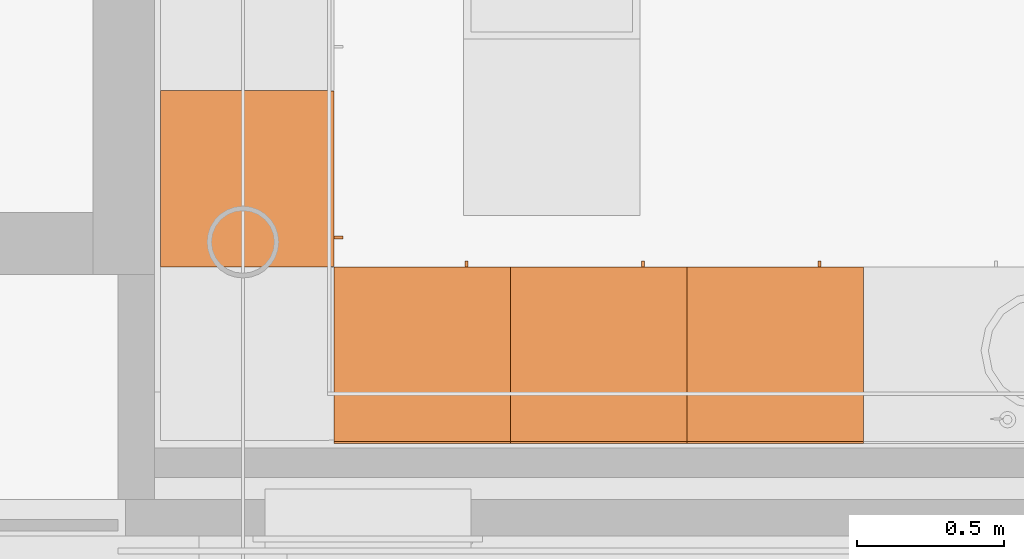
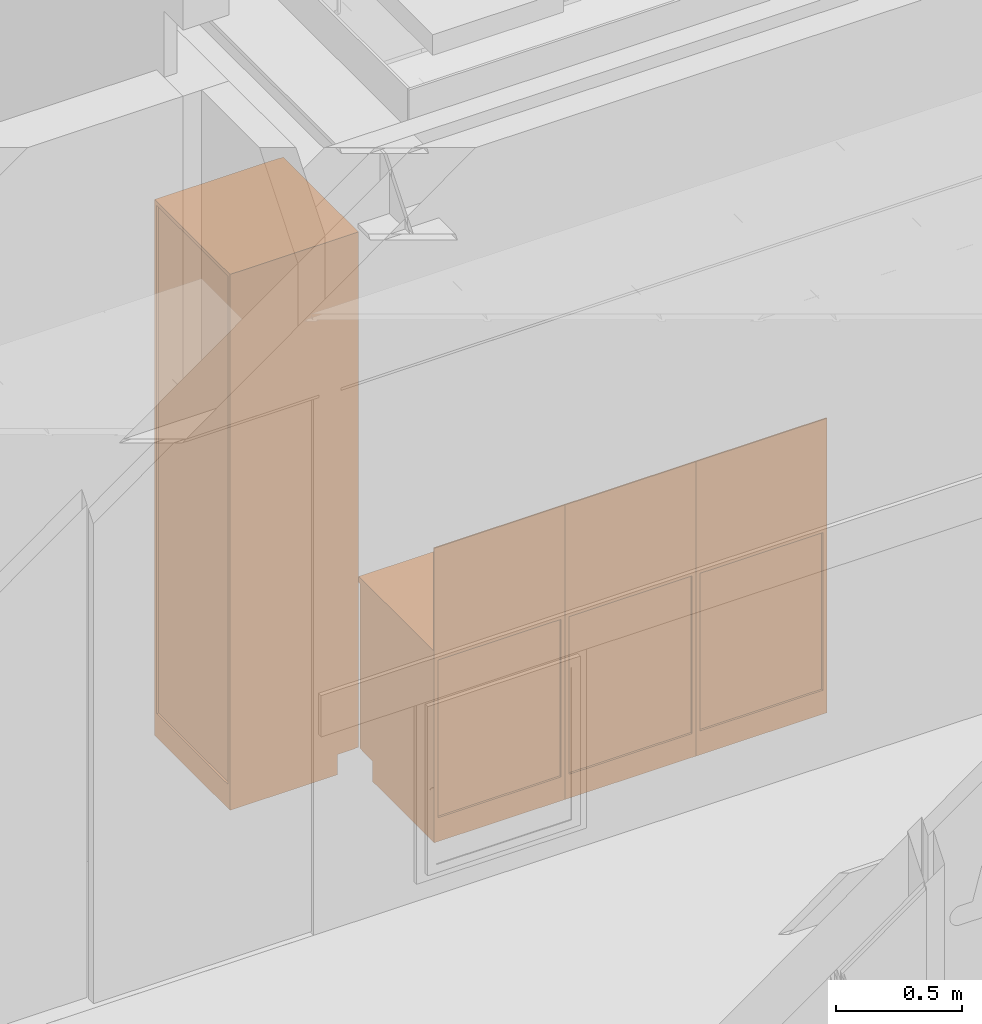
# One storey, part 340 of 347: 4 proxies.
"""IFC2X3 building model written with IfcOpenShell, lengths in millimetres."""

from ifc_helpers import new_model, entity, si_unit, converted_unit, derived_unit, money_unit, direction, frame, origin_with_axes, place, context, subcontext, project, spatial, faceted_brep, type_object, element, save


model = new_model("IFC2X3")

# Units and contexts
model_context = context("Model", 3, precision=0.01, world=origin_with_axes(), true_north=direction((0.0, 1.0)))
plan_context = context("Plan", 3, precision=0.01, world=origin_with_axes(), true_north=direction((0.0, 1.0)))
body_context = subcontext(model_context, "Body", "Model", "MODEL_VIEW")
ifc_project = project(units=[si_unit("LENGTHUNIT", "METRE", prefix="MILLI"), si_unit("AREAUNIT", "SQUARE_METRE"), si_unit("VOLUMEUNIT", "CUBIC_METRE"), converted_unit("PLANEANGLEUNIT", "DEGREE", entity("IfcPlaneAngleMeasure", 0.0174532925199), si_unit("PLANEANGLEUNIT", "RADIAN"), dimensions=[0, 0, 0, 0, 0, 0, 0]), money_unit("EUR"), converted_unit("TIMEUNIT", "Year", entity("IfcTimeMeasure", 31556926.0), si_unit("TIMEUNIT", "SECOND"), dimensions=[0, 0, 1, 0, 0, 0, 0]), si_unit("MASSUNIT", "GRAM", prefix="KILO"), si_unit("THERMODYNAMICTEMPERATUREUNIT", "DEGREE_CELSIUS"), si_unit("LUMINOUSINTENSITYUNIT", "LUMEN"), si_unit("ENERGYUNIT", "JOULE", prefix="MEGA"), derived_unit("THERMALCONDUCTANCEUNIT", [(si_unit("POWERUNIT", "WATT"), 1), (si_unit("LENGTHUNIT", "METRE"), -1), (si_unit("THERMODYNAMICTEMPERATUREUNIT", "KELVIN"), -1)]), derived_unit("SPECIFICHEATCAPACITYUNIT", [(si_unit("ENERGYUNIT", "JOULE"), 1), (si_unit("MASSUNIT", "GRAM", prefix="KILO"), -1), (si_unit("THERMODYNAMICTEMPERATUREUNIT", "KELVIN"), -1)]), derived_unit("MASSDENSITYUNIT", [(si_unit("MASSUNIT", "GRAM", prefix="KILO"), 1), (si_unit("VOLUMEUNIT", "CUBIC_METRE"), -1)])], contexts=[model_context, plan_context])

# Site, building, storey
site_placement = place(None, origin_with_axes())
site = spatial("IfcSite", under=ifc_project, at=site_placement, Name="Site", CompositionType="ELEMENT")
building_placement = place(site_placement, origin_with_axes())
building = spatial("IfcBuilding", under=site, at=building_placement, Name="Naam gebouw", CompositionType="ELEMENT")
storey_placement = place(building_placement, origin_with_axes())
storey = spatial("IfcBuildingStorey", under=building, at=storey_placement, Name="begane grond", CompositionType="ELEMENT", Elevation=0.0)

# Proxies
building_element_proxy_type = type_object("IfcBuildingElementProxyType", Name="Onderkast recht 25", PredefinedType="NOTDEFINED")
proxy_1_placement = place(storey_placement, frame((25485.0, 14715.0, 0.0), z_axis=(0.0, 0.0, 1.0), x_axis=(-1.0, 0.0, 0.0)))
element("IfcBuildingElementProxy", 1, at=proxy_1_placement, inside=storey, type_object=building_element_proxy_type, Name="_73 pantryblok", context=body_context, shape_type="Brep", body=[
    faceted_brep([(-600.0, 0.0, 2.0), (-600.0, -492.0, 2.0), (-600.0, -492.0, 100.0), (-600.0, 0.0, 100.0), (0.0, -492.0, 2.0), (0.0, 0.0, 2.0), (0.0, -492.0, 100.0), (0.0, 0.0, 100.0)], [[[0, 1, 2, 3]], [[4, 1, 0, 5]], [[1, 4, 6, 2]], [[2, 6, 7, 3]], [[5, 0, 3, 7]], [[4, 5, 7, 6]]]),
    faceted_brep([(0.0, -600.0, 900.0), (0.0, -600.0, 930.0), (-600.0, -600.0, 930.0), (-600.0, -600.0, 900.0), (0.0, 0.0, 900.0), (0.0, 0.0, 930.0), (-600.0, 0.0, 930.0), (-600.0, 0.0, 900.0)], [[[0, 1, 2, 3]], [[4, 5, 1, 0]], [[1, 5, 6, 2]], [[3, 2, 6, 7]], [[0, 3, 7, 4]], [[7, 6, 5, 4]]]),
    faceted_brep([(-600.0, 0.0, 930.0), (0.0, 0.0, 930.0), (0.0, -6.0, 930.0), (-600.0, -6.0, 930.0), (-600.0, 0.0, 1430.0), (0.0, 0.0, 1430.0), (0.0, -6.0, 1430.0), (-600.0, -6.0, 1430.0)], [[[0, 1, 2, 3]], [[4, 5, 1, 0]], [[1, 5, 6, 2]], [[3, 2, 6, 7]], [[0, 3, 7, 4]], [[7, 6, 5, 4]]]),
    faceted_brep([(-446.0, -590.0, 416.0), (-456.0, -590.0, 416.0), (-456.0, -590.0, 426.0), (-446.0, -590.0, 426.0), (-446.0, -600.0, 416.0), (-456.0, -600.0, 416.0), (-456.0, -603.472963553, 416.30384494), (-456.0, -606.840402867, 417.206147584), (-456.0, -610.0, 418.679491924), (-456.0, -612.855752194, 420.679111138), (-456.0, -615.320888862, 423.144247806), (-456.0, -617.320508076, 426.0), (-456.0, -618.793852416, 429.159597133), (-456.0, -619.69615506, 432.527036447), (-456.0, -620.0, 436.0), (-456.0, -620.0, 516.0), (-456.0, -619.69615506, 519.472963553), (-456.0, -618.793852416, 522.840402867), (-456.0, -617.320508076, 526.0), (-456.0, -615.320888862, 528.855752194), (-456.0, -612.855752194, 531.320888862), (-456.0, -610.0, 533.320508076), (-456.0, -606.840402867, 534.793852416), (-456.0, -603.472963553, 535.69615506), (-456.0, -600.0, 536.0), (-456.0, -590.0, 536.0), (-456.0, -590.0, 526.0), (-456.0, -600.0, 526.0), (-456.0, -601.736481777, 525.84807753), (-456.0, -603.420201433, 525.396926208), (-456.0, -605.0, 524.660254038), (-456.0, -606.427876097, 523.660444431), (-456.0, -607.660444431, 522.427876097), (-456.0, -608.660254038, 521.0), (-456.0, -609.396926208, 519.420201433), (-456.0, -609.84807753, 517.736481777), (-456.0, -610.0, 516.0), (-456.0, -610.0, 436.0), (-456.0, -609.84807753, 434.263518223), (-456.0, -609.396926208, 432.579798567), (-456.0, -608.660254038, 431.0), (-456.0, -607.660444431, 429.572123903), (-456.0, -606.427876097, 428.339555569), (-456.0, -605.0, 427.339745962), (-456.0, -603.420201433, 426.603073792), (-456.0, -601.736481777, 426.15192247), (-456.0, -600.0, 426.0), (-446.0, -600.0, 426.0), (-446.0, -601.736481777, 426.15192247), (-446.0, -603.420201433, 426.603073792), (-446.0, -605.0, 427.339745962), (-446.0, -606.427876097, 428.339555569), (-446.0, -607.660444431, 429.572123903), (-446.0, -608.660254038, 431.0), (-446.0, -609.396926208, 432.579798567), (-446.0, -609.84807753, 434.263518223), (-446.0, -610.0, 436.0), (-446.0, -610.0, 516.0), (-446.0, -609.84807753, 517.736481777), (-446.0, -609.396926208, 519.420201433), (-446.0, -608.660254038, 521.0), (-446.0, -607.660444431, 522.427876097), (-446.0, -606.427876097, 523.660444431), (-446.0, -605.0, 524.660254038), (-446.0, -603.420201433, 525.396926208), (-446.0, -601.736481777, 525.84807753), (-446.0, -600.0, 526.0), (-446.0, -590.0, 526.0), (-446.0, -590.0, 536.0), (-446.0, -600.0, 536.0), (-446.0, -603.472963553, 535.69615506), (-446.0, -606.840402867, 534.793852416), (-446.0, -610.0, 533.320508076), (-446.0, -612.855752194, 531.320888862), (-446.0, -615.320888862, 528.855752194), (-446.0, -617.320508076, 526.0), (-446.0, -618.793852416, 522.840402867), (-446.0, -619.69615506, 519.472963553), (-446.0, -620.0, 516.0), (-446.0, -620.0, 436.0), (-446.0, -619.69615506, 432.527036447), (-446.0, -618.793852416, 429.159597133), (-446.0, -617.320508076, 426.0), (-446.0, -615.320888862, 423.144247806), (-446.0, -612.855752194, 420.679111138), (-446.0, -610.0, 418.679491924), (-446.0, -606.840402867, 417.206147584), (-446.0, -603.472963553, 416.30384494)], [[[0, 1, 2, 3]], [[4, 5, 1, 0]], [[1, 5, 6, 7, 8, 9, 10, 11, 12, 13, 14, 15, 16, 17, 18, 19, 20, 21, 22, 23, 24, 25, 26, 27, 28, 29, 30, 31, 32, 33, 34, 35, 36, 37, 38, 39, 40, 41, 42, 43, 44, 45, 46, 2]], [[3, 2, 46, 47]], [[0, 3, 47, 48, 49, 50, 51, 52, 53, 54, 55, 56, 57, 58, 59, 60, 61, 62, 63, 64, 65, 66, 67, 68, 69, 70, 71, 72, 73, 74, 75, 76, 77, 78, 79, 80, 81, 82, 83, 84, 85, 86, 87, 4]], [[87, 6, 5, 4]], [[86, 7, 6, 87]], [[85, 8, 7, 86]], [[84, 9, 8, 85]], [[83, 10, 9, 84]], [[82, 11, 10, 83]], [[81, 12, 11, 82]], [[80, 13, 12, 81]], [[79, 14, 13, 80]], [[78, 15, 14, 79]], [[77, 16, 15, 78]], [[76, 17, 16, 77]], [[75, 18, 17, 76]], [[74, 19, 18, 75]], [[73, 20, 19, 74]], [[72, 21, 20, 73]], [[71, 22, 21, 72]], [[70, 23, 22, 71]], [[69, 24, 23, 70]], [[68, 25, 24, 69]], [[67, 26, 25, 68]], [[66, 27, 26, 67]], [[65, 28, 27, 66]], [[64, 29, 28, 65]], [[63, 30, 29, 64]], [[62, 31, 30, 63]], [[61, 32, 31, 62]], [[60, 33, 32, 61]], [[59, 34, 33, 60]], [[58, 35, 34, 59]], [[57, 36, 35, 58]], [[56, 37, 36, 57]], [[55, 38, 37, 56]], [[54, 39, 38, 55]], [[53, 40, 39, 54]], [[52, 41, 40, 53]], [[51, 42, 41, 52]], [[50, 43, 42, 51]], [[49, 44, 43, 50]], [[48, 45, 44, 49]], [[47, 46, 45, 48]]]),
    faceted_brep([(-1.0, -572.0, 101.0), (-1.0, -590.0, 101.0), (-599.0, -590.0, 101.0), (-599.0, -572.0, 101.0), (-1.0, -572.0, 899.0), (-1.0, -590.0, 899.0), (-599.0, -590.0, 899.0), (-599.0, -572.0, 899.0)], [[[0, 1, 2, 3]], [[4, 5, 1, 0]], [[1, 5, 6, 2]], [[3, 2, 6, 7]], [[0, 3, 7, 4]], [[7, 6, 5, 4]]]),
    faceted_brep([(-18.0, -572.0, 100.0), (-18.0, -572.0, 118.0), (-582.0, -572.0, 118.0), (-582.0, -572.0, 100.0), (-18.0, 0.0, 100.0), (-18.0, 0.0, 118.0), (-582.0, 0.0, 118.0), (-582.0, 0.0, 100.0)], [[[0, 1, 2, 3]], [[4, 5, 1, 0]], [[1, 5, 6, 2]], [[3, 2, 6, 7]], [[0, 3, 7, 4]], [[7, 6, 5, 4]]]),
    faceted_brep([(-18.0, -572.0, 882.0), (-582.0, -572.0, 882.0), (-582.0, -512.0, 882.0), (-18.0, -512.0, 882.0), (-18.0, -572.0, 900.0), (-582.0, -572.0, 900.0), (-582.0, -512.0, 900.0), (-18.0, -512.0, 900.0)], [[[0, 1, 2, 3]], [[4, 5, 1, 0]], [[1, 5, 6, 2]], [[3, 2, 6, 7]], [[0, 3, 7, 4]], [[7, 6, 5, 4]]]),
    faceted_brep([(-582.0, 0.0, 882.0), (-18.0, 0.0, 882.0), (-18.0, -60.0, 882.0), (-582.0, -60.0, 882.0), (-582.0, 0.0, 900.0), (-18.0, 0.0, 900.0), (-18.0, -60.0, 900.0), (-582.0, -60.0, 900.0)], [[[0, 1, 2, 3]], [[4, 5, 1, 0]], [[1, 5, 6, 2]], [[3, 2, 6, 7]], [[0, 3, 7, 4]], [[7, 6, 5, 4]]]),
    faceted_brep([(0.0, 0.0, 100.0), (0.0, 0.0, 900.0), (0.0, -572.0, 900.0), (0.0, -572.0, 100.0), (-18.0, 0.0, 100.0), (-18.0, 0.0, 900.0), (-18.0, -572.0, 900.0), (-18.0, -572.0, 100.0)], [[[0, 1, 2, 3]], [[4, 5, 1, 0]], [[1, 5, 6, 2]], [[3, 2, 6, 7]], [[0, 3, 7, 4]], [[7, 6, 5, 4]]]),
    faceted_brep([(-600.0, -572.0, 100.0), (-600.0, -572.0, 900.0), (-600.0, 0.0, 900.0), (-600.0, 0.0, 100.0), (-582.0, -572.0, 100.0), (-582.0, -572.0, 900.0), (-582.0, 0.0, 900.0), (-582.0, 0.0, 100.0)], [[[0, 1, 2, 3]], [[4, 5, 1, 0]], [[1, 5, 6, 2]], [[3, 2, 6, 7]], [[0, 3, 7, 4]], [[7, 6, 5, 4]]]),
    faceted_brep([(-582.0, -9.0, 118.0), (-582.0, -9.0, 882.0), (-18.0, -9.0, 882.0), (-18.0, -9.0, 118.0), (-582.0, -18.0, 118.0), (-582.0, -18.0, 882.0), (-18.0, -18.0, 882.0), (-18.0, -18.0, 118.0)], [[[0, 1, 2, 3]], [[4, 5, 1, 0]], [[1, 5, 6, 2]], [[3, 2, 6, 7]], [[0, 3, 7, 4]], [[7, 6, 5, 4]]]),
])
proxy_2_placement = place(storey_placement, frame((24885.0, 14715.0, 0.0), z_axis=(0.0, 0.0, 1.0), x_axis=(-1.0, 0.0, 0.0)))
element("IfcBuildingElementProxy", 2, at=proxy_2_placement, inside=storey, type_object=building_element_proxy_type, Name="_73 pantryblok", context=body_context, shape_type="Brep", body=[
    faceted_brep([(-600.0, 0.0, 2.0), (-600.0, -492.0, 2.0), (-600.0, -492.0, 100.0), (-600.0, 0.0, 100.0), (0.0, -492.0, 2.0), (0.0, 0.0, 2.0), (0.0, -492.0, 100.0), (0.0, 0.0, 100.0)], [[[0, 1, 2, 3]], [[4, 1, 0, 5]], [[1, 4, 6, 2]], [[2, 6, 7, 3]], [[5, 0, 3, 7]], [[4, 5, 7, 6]]]),
    faceted_brep([(0.0, -600.0, 900.0), (0.0, -600.0, 930.0), (-600.0, -600.0, 930.0), (-600.0, -600.0, 900.0), (0.0, 0.0, 900.0), (0.0, 0.0, 930.0), (-600.0, 0.0, 930.0), (-600.0, 0.0, 900.0)], [[[0, 1, 2, 3]], [[4, 5, 1, 0]], [[1, 5, 6, 2]], [[3, 2, 6, 7]], [[0, 3, 7, 4]], [[7, 6, 5, 4]]]),
    faceted_brep([(-600.0, 0.0, 930.0), (0.0, 0.0, 930.0), (0.0, -6.0, 930.0), (-600.0, -6.0, 930.0), (-600.0, 0.0, 1430.0), (0.0, 0.0, 1430.0), (0.0, -6.0, 1430.0), (-600.0, -6.0, 1430.0)], [[[0, 1, 2, 3]], [[4, 5, 1, 0]], [[1, 5, 6, 2]], [[3, 2, 6, 7]], [[0, 3, 7, 4]], [[7, 6, 5, 4]]]),
    faceted_brep([(-446.0, -590.0, 416.0), (-456.0, -590.0, 416.0), (-456.0, -590.0, 426.0), (-446.0, -590.0, 426.0), (-446.0, -600.0, 416.0), (-456.0, -600.0, 416.0), (-456.0, -603.472963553, 416.30384494), (-456.0, -606.840402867, 417.206147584), (-456.0, -610.0, 418.679491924), (-456.0, -612.855752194, 420.679111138), (-456.0, -615.320888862, 423.144247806), (-456.0, -617.320508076, 426.0), (-456.0, -618.793852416, 429.159597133), (-456.0, -619.69615506, 432.527036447), (-456.0, -620.0, 436.0), (-456.0, -620.0, 516.0), (-456.0, -619.69615506, 519.472963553), (-456.0, -618.793852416, 522.840402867), (-456.0, -617.320508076, 526.0), (-456.0, -615.320888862, 528.855752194), (-456.0, -612.855752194, 531.320888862), (-456.0, -610.0, 533.320508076), (-456.0, -606.840402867, 534.793852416), (-456.0, -603.472963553, 535.69615506), (-456.0, -600.0, 536.0), (-456.0, -590.0, 536.0), (-456.0, -590.0, 526.0), (-456.0, -600.0, 526.0), (-456.0, -601.736481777, 525.84807753), (-456.0, -603.420201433, 525.396926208), (-456.0, -605.0, 524.660254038), (-456.0, -606.427876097, 523.660444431), (-456.0, -607.660444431, 522.427876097), (-456.0, -608.660254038, 521.0), (-456.0, -609.396926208, 519.420201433), (-456.0, -609.84807753, 517.736481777), (-456.0, -610.0, 516.0), (-456.0, -610.0, 436.0), (-456.0, -609.84807753, 434.263518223), (-456.0, -609.396926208, 432.579798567), (-456.0, -608.660254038, 431.0), (-456.0, -607.660444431, 429.572123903), (-456.0, -606.427876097, 428.339555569), (-456.0, -605.0, 427.339745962), (-456.0, -603.420201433, 426.603073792), (-456.0, -601.736481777, 426.15192247), (-456.0, -600.0, 426.0), (-446.0, -600.0, 426.0), (-446.0, -601.736481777, 426.15192247), (-446.0, -603.420201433, 426.603073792), (-446.0, -605.0, 427.339745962), (-446.0, -606.427876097, 428.339555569), (-446.0, -607.660444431, 429.572123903), (-446.0, -608.660254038, 431.0), (-446.0, -609.396926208, 432.579798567), (-446.0, -609.84807753, 434.263518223), (-446.0, -610.0, 436.0), (-446.0, -610.0, 516.0), (-446.0, -609.84807753, 517.736481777), (-446.0, -609.396926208, 519.420201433), (-446.0, -608.660254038, 521.0), (-446.0, -607.660444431, 522.427876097), (-446.0, -606.427876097, 523.660444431), (-446.0, -605.0, 524.660254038), (-446.0, -603.420201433, 525.396926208), (-446.0, -601.736481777, 525.84807753), (-446.0, -600.0, 526.0), (-446.0, -590.0, 526.0), (-446.0, -590.0, 536.0), (-446.0, -600.0, 536.0), (-446.0, -603.472963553, 535.69615506), (-446.0, -606.840402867, 534.793852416), (-446.0, -610.0, 533.320508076), (-446.0, -612.855752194, 531.320888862), (-446.0, -615.320888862, 528.855752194), (-446.0, -617.320508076, 526.0), (-446.0, -618.793852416, 522.840402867), (-446.0, -619.69615506, 519.472963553), (-446.0, -620.0, 516.0), (-446.0, -620.0, 436.0), (-446.0, -619.69615506, 432.527036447), (-446.0, -618.793852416, 429.159597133), (-446.0, -617.320508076, 426.0), (-446.0, -615.320888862, 423.144247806), (-446.0, -612.855752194, 420.679111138), (-446.0, -610.0, 418.679491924), (-446.0, -606.840402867, 417.206147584), (-446.0, -603.472963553, 416.30384494)], [[[0, 1, 2, 3]], [[4, 5, 1, 0]], [[1, 5, 6, 7, 8, 9, 10, 11, 12, 13, 14, 15, 16, 17, 18, 19, 20, 21, 22, 23, 24, 25, 26, 27, 28, 29, 30, 31, 32, 33, 34, 35, 36, 37, 38, 39, 40, 41, 42, 43, 44, 45, 46, 2]], [[3, 2, 46, 47]], [[0, 3, 47, 48, 49, 50, 51, 52, 53, 54, 55, 56, 57, 58, 59, 60, 61, 62, 63, 64, 65, 66, 67, 68, 69, 70, 71, 72, 73, 74, 75, 76, 77, 78, 79, 80, 81, 82, 83, 84, 85, 86, 87, 4]], [[87, 6, 5, 4]], [[86, 7, 6, 87]], [[85, 8, 7, 86]], [[84, 9, 8, 85]], [[83, 10, 9, 84]], [[82, 11, 10, 83]], [[81, 12, 11, 82]], [[80, 13, 12, 81]], [[79, 14, 13, 80]], [[78, 15, 14, 79]], [[77, 16, 15, 78]], [[76, 17, 16, 77]], [[75, 18, 17, 76]], [[74, 19, 18, 75]], [[73, 20, 19, 74]], [[72, 21, 20, 73]], [[71, 22, 21, 72]], [[70, 23, 22, 71]], [[69, 24, 23, 70]], [[68, 25, 24, 69]], [[67, 26, 25, 68]], [[66, 27, 26, 67]], [[65, 28, 27, 66]], [[64, 29, 28, 65]], [[63, 30, 29, 64]], [[62, 31, 30, 63]], [[61, 32, 31, 62]], [[60, 33, 32, 61]], [[59, 34, 33, 60]], [[58, 35, 34, 59]], [[57, 36, 35, 58]], [[56, 37, 36, 57]], [[55, 38, 37, 56]], [[54, 39, 38, 55]], [[53, 40, 39, 54]], [[52, 41, 40, 53]], [[51, 42, 41, 52]], [[50, 43, 42, 51]], [[49, 44, 43, 50]], [[48, 45, 44, 49]], [[47, 46, 45, 48]]]),
    faceted_brep([(-1.0, -572.0, 101.0), (-1.0, -590.0, 101.0), (-599.0, -590.0, 101.0), (-599.0, -572.0, 101.0), (-1.0, -572.0, 899.0), (-1.0, -590.0, 899.0), (-599.0, -590.0, 899.0), (-599.0, -572.0, 899.0)], [[[0, 1, 2, 3]], [[4, 5, 1, 0]], [[1, 5, 6, 2]], [[3, 2, 6, 7]], [[0, 3, 7, 4]], [[7, 6, 5, 4]]]),
    faceted_brep([(-18.0, -572.0, 100.0), (-18.0, -572.0, 118.0), (-582.0, -572.0, 118.0), (-582.0, -572.0, 100.0), (-18.0, 0.0, 100.0), (-18.0, 0.0, 118.0), (-582.0, 0.0, 118.0), (-582.0, 0.0, 100.0)], [[[0, 1, 2, 3]], [[4, 5, 1, 0]], [[1, 5, 6, 2]], [[3, 2, 6, 7]], [[0, 3, 7, 4]], [[7, 6, 5, 4]]]),
    faceted_brep([(-18.0, -572.0, 882.0), (-582.0, -572.0, 882.0), (-582.0, -512.0, 882.0), (-18.0, -512.0, 882.0), (-18.0, -572.0, 900.0), (-582.0, -572.0, 900.0), (-582.0, -512.0, 900.0), (-18.0, -512.0, 900.0)], [[[0, 1, 2, 3]], [[4, 5, 1, 0]], [[1, 5, 6, 2]], [[3, 2, 6, 7]], [[0, 3, 7, 4]], [[7, 6, 5, 4]]]),
    faceted_brep([(-582.0, 0.0, 882.0), (-18.0, 0.0, 882.0), (-18.0, -60.0, 882.0), (-582.0, -60.0, 882.0), (-582.0, 0.0, 900.0), (-18.0, 0.0, 900.0), (-18.0, -60.0, 900.0), (-582.0, -60.0, 900.0)], [[[0, 1, 2, 3]], [[4, 5, 1, 0]], [[1, 5, 6, 2]], [[3, 2, 6, 7]], [[0, 3, 7, 4]], [[7, 6, 5, 4]]]),
    faceted_brep([(0.0, 0.0, 100.0), (0.0, 0.0, 900.0), (0.0, -572.0, 900.0), (0.0, -572.0, 100.0), (-18.0, 0.0, 100.0), (-18.0, 0.0, 900.0), (-18.0, -572.0, 900.0), (-18.0, -572.0, 100.0)], [[[0, 1, 2, 3]], [[4, 5, 1, 0]], [[1, 5, 6, 2]], [[3, 2, 6, 7]], [[0, 3, 7, 4]], [[7, 6, 5, 4]]]),
    faceted_brep([(-600.0, -572.0, 100.0), (-600.0, -572.0, 900.0), (-600.0, 0.0, 900.0), (-600.0, 0.0, 100.0), (-582.0, -572.0, 100.0), (-582.0, -572.0, 900.0), (-582.0, 0.0, 900.0), (-582.0, 0.0, 100.0)], [[[0, 1, 2, 3]], [[4, 5, 1, 0]], [[1, 5, 6, 2]], [[3, 2, 6, 7]], [[0, 3, 7, 4]], [[7, 6, 5, 4]]]),
    faceted_brep([(-582.0, -9.0, 118.0), (-582.0, -9.0, 882.0), (-18.0, -9.0, 882.0), (-18.0, -9.0, 118.0), (-582.0, -18.0, 118.0), (-582.0, -18.0, 882.0), (-18.0, -18.0, 882.0), (-18.0, -18.0, 118.0)], [[[0, 1, 2, 3]], [[4, 5, 1, 0]], [[1, 5, 6, 2]], [[3, 2, 6, 7]], [[0, 3, 7, 4]], [[7, 6, 5, 4]]]),
])
proxy_3_placement = place(storey_placement, frame((24295.0, 15315.0, 0.0), z_axis=(0.0, 0.0, 1.0), x_axis=(0.0, 1.0, 0.0)))
element("IfcBuildingElementProxy", 3, at=proxy_3_placement, inside=storey, type_object=building_element_proxy_type, Name="_73 pantryblok", context=body_context, shape_type="Brep", body=[
    faceted_brep([(0.0, -492.0, 2.0), (600.0, -492.0, 2.0), (600.0, -492.0, 100.0), (0.0, -492.0, 100.0), (600.0, 0.0, 2.0), (0.0, 0.0, 2.0), (600.0, 0.0, 100.0), (0.0, 0.0, 100.0)], [[[0, 1, 2, 3]], [[4, 1, 0, 5]], [[1, 4, 6, 2]], [[7, 3, 2, 6]], [[5, 0, 3, 7]], [[4, 5, 7, 6]]]),
    faceted_brep([(96.0, -590.0, 1251.0), (96.0, -590.0, 1261.0), (106.0, -590.0, 1261.0), (106.0, -590.0, 1251.0), (96.0, -600.0, 1251.0), (96.0, -603.472963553, 1251.30384494), (96.0, -606.840402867, 1252.20614758), (96.0, -610.0, 1253.67949192), (96.0, -612.855752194, 1255.67911114), (96.0, -615.320888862, 1258.14424781), (96.0, -617.320508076, 1261.0), (96.0, -618.793852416, 1264.15959713), (96.0, -619.69615506, 1267.52703645), (96.0, -620.0, 1271.0), (96.0, -620.0, 1351.0), (96.0, -619.69615506, 1354.47296355), (96.0, -618.793852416, 1357.84040287), (96.0, -617.320508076, 1361.0), (96.0, -615.320888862, 1363.85575219), (96.0, -612.855752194, 1366.32088886), (96.0, -610.0, 1368.32050808), (96.0, -606.840402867, 1369.79385242), (96.0, -603.472963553, 1370.69615506), (96.0, -600.0, 1371.0), (96.0, -590.0, 1371.0), (96.0, -590.0, 1361.0), (96.0, -600.0, 1361.0), (96.0, -601.736481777, 1360.84807753), (96.0, -603.420201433, 1360.39692621), (96.0, -605.0, 1359.66025404), (96.0, -606.427876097, 1358.66044443), (96.0, -607.660444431, 1357.4278761), (96.0, -608.660254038, 1356.0), (96.0, -609.396926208, 1354.42020143), (96.0, -609.84807753, 1352.73648178), (96.0, -610.0, 1351.0), (96.0, -610.0, 1271.0), (96.0, -609.84807753, 1269.26351822), (96.0, -609.396926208, 1267.57979857), (96.0, -608.660254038, 1266.0), (96.0, -607.660444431, 1264.5721239), (96.0, -606.427876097, 1263.33955557), (96.0, -605.0, 1262.33974596), (96.0, -603.420201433, 1261.60307379), (96.0, -601.736481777, 1261.15192247), (96.0, -600.0, 1261.0), (106.0, -600.0, 1261.0), (106.0, -601.736481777, 1261.15192247), (106.0, -603.420201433, 1261.60307379), (106.0, -605.0, 1262.33974596), (106.0, -606.427876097, 1263.33955557), (106.0, -607.660444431, 1264.5721239), (106.0, -608.660254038, 1266.0), (106.0, -609.396926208, 1267.57979857), (106.0, -609.84807753, 1269.26351822), (106.0, -610.0, 1271.0), (106.0, -610.0, 1351.0), (106.0, -609.84807753, 1352.73648178), (106.0, -609.396926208, 1354.42020143), (106.0, -608.660254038, 1356.0), (106.0, -607.660444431, 1357.4278761), (106.0, -606.427876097, 1358.66044443), (106.0, -605.0, 1359.66025404), (106.0, -603.420201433, 1360.39692621), (106.0, -601.736481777, 1360.84807753), (106.0, -600.0, 1361.0), (106.0, -590.0, 1361.0), (106.0, -590.0, 1371.0), (106.0, -600.0, 1371.0), (106.0, -603.472963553, 1370.69615506), (106.0, -606.840402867, 1369.79385242), (106.0, -610.0, 1368.32050808), (106.0, -612.855752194, 1366.32088886), (106.0, -615.320888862, 1363.85575219), (106.0, -617.320508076, 1361.0), (106.0, -618.793852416, 1357.84040287), (106.0, -619.69615506, 1354.47296355), (106.0, -620.0, 1351.0), (106.0, -620.0, 1271.0), (106.0, -619.69615506, 1267.52703645), (106.0, -618.793852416, 1264.15959713), (106.0, -617.320508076, 1261.0), (106.0, -615.320888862, 1258.14424781), (106.0, -612.855752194, 1255.67911114), (106.0, -610.0, 1253.67949192), (106.0, -606.840402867, 1252.20614758), (106.0, -603.472963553, 1251.30384494), (106.0, -600.0, 1251.0)], [[[0, 1, 2, 3]], [[0, 4, 5, 6, 7, 8, 9, 10, 11, 12, 13, 14, 15, 16, 17, 18, 19, 20, 21, 22, 23, 24, 25, 26, 27, 28, 29, 30, 31, 32, 33, 34, 35, 36, 37, 38, 39, 40, 41, 42, 43, 44, 45, 1]], [[1, 45, 46, 2]], [[3, 2, 46, 47, 48, 49, 50, 51, 52, 53, 54, 55, 56, 57, 58, 59, 60, 61, 62, 63, 64, 65, 66, 67, 68, 69, 70, 71, 72, 73, 74, 75, 76, 77, 78, 79, 80, 81, 82, 83, 84, 85, 86, 87]], [[4, 0, 3, 87]], [[5, 4, 87, 86]], [[6, 5, 86, 85]], [[7, 6, 85, 84]], [[8, 7, 84, 83]], [[9, 8, 83, 82]], [[10, 9, 82, 81]], [[11, 10, 81, 80]], [[12, 11, 80, 79]], [[13, 12, 79, 78]], [[14, 13, 78, 77]], [[15, 14, 77, 76]], [[16, 15, 76, 75]], [[17, 16, 75, 74]], [[18, 17, 74, 73]], [[19, 18, 73, 72]], [[20, 19, 72, 71]], [[21, 20, 71, 70]], [[22, 21, 70, 69]], [[23, 22, 69, 68]], [[24, 23, 68, 67]], [[25, 24, 67, 66]], [[26, 25, 66, 65]], [[27, 26, 65, 64]], [[28, 27, 64, 63]], [[29, 28, 63, 62]], [[30, 29, 62, 61]], [[31, 30, 61, 60]], [[32, 31, 60, 59]], [[33, 32, 59, 58]], [[34, 33, 58, 57]], [[35, 34, 57, 56]], [[36, 35, 56, 55]], [[37, 36, 55, 54]], [[38, 37, 54, 53]], [[39, 38, 53, 52]], [[40, 39, 52, 51]], [[41, 40, 51, 50]], [[42, 41, 50, 49]], [[43, 42, 49, 48]], [[44, 43, 48, 47]], [[45, 44, 47, 46]]]),
    faceted_brep([(0.999999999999, -572.0, 101.0), (599.0, -572.0, 101.0), (599.0, -590.0, 101.0), (0.999999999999, -590.0, 101.0), (0.999999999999, -572.0, 2599.0), (599.0, -572.0, 2599.0), (599.0, -590.0, 2599.0), (0.999999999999, -590.0, 2599.0)], [[[0, 1, 2, 3]], [[0, 4, 5, 1]], [[1, 5, 6, 2]], [[3, 2, 6, 7]], [[4, 0, 3, 7]], [[5, 4, 7, 6]]]),
    faceted_brep([(18.0, -572.0, 100.0), (582.0, -572.0, 100.0), (582.0, -572.0, 118.0), (18.0, -572.0, 118.0), (18.0, 0.0, 100.0), (582.0, 0.0, 100.0), (582.0, 0.0, 118.0), (18.0, 0.0, 118.0)], [[[0, 1, 2, 3]], [[0, 4, 5, 1]], [[1, 5, 6, 2]], [[3, 2, 6, 7]], [[4, 0, 3, 7]], [[5, 4, 7, 6]]]),
    faceted_brep([(18.0, -572.0, 2582.0), (582.0, -572.0, 2582.0), (582.0, -572.0, 2600.0), (18.0, -572.0, 2600.0), (18.0, 0.0, 2582.0), (582.0, 0.0, 2582.0), (582.0, 0.0, 2600.0), (18.0, 0.0, 2600.0)], [[[0, 1, 2, 3]], [[0, 4, 5, 1]], [[1, 5, 6, 2]], [[3, 2, 6, 7]], [[4, 0, 3, 7]], [[5, 4, 7, 6]]]),
    faceted_brep([(0.0, 0.0, 100.0), (0.0, -572.0, 100.0), (0.0, -572.0, 2600.0), (0.0, 0.0, 2600.0), (18.0, 0.0, 100.0), (18.0, -572.0, 100.0), (18.0, -572.0, 2600.0), (18.0, 0.0, 2600.0)], [[[0, 1, 2, 3]], [[0, 4, 5, 1]], [[1, 5, 6, 2]], [[3, 2, 6, 7]], [[4, 0, 3, 7]], [[5, 4, 7, 6]]]),
    faceted_brep([(600.0, -572.0, 100.0), (600.0, 0.0, 100.0), (600.0, 0.0, 2600.0), (600.0, -572.0, 2600.0), (582.0, -572.0, 100.0), (582.0, 0.0, 100.0), (582.0, 0.0, 2600.0), (582.0, -572.0, 2600.0)], [[[0, 1, 2, 3]], [[0, 4, 5, 1]], [[1, 5, 6, 2]], [[3, 2, 6, 7]], [[4, 0, 3, 7]], [[5, 4, 7, 6]]]),
    faceted_brep([(582.0, -9.0, 118.0), (18.0, -9.0, 118.0), (18.0, -9.0, 2582.0), (582.0, -9.0, 2582.0), (582.0, -18.0, 118.0), (18.0, -18.0, 118.0), (18.0, -18.0, 2582.0), (582.0, -18.0, 2582.0)], [[[0, 1, 2, 3]], [[0, 4, 5, 1]], [[1, 5, 6, 2]], [[3, 2, 6, 7]], [[4, 0, 3, 7]], [[5, 4, 7, 6]]]),
])
proxy_4_placement = place(storey_placement, frame((26085.0, 14715.0, 0.0), z_axis=(0.0, 0.0, 1.0), x_axis=(-1.0, 0.0, 0.0)))
element("IfcBuildingElementProxy", 4, at=proxy_4_placement, inside=storey, type_object=building_element_proxy_type, Name="_73 pantryblok", context=body_context, shape_type="Brep", body=[
    faceted_brep([(-600.0, 0.0, 2.0), (-600.0, -492.0, 2.0), (-600.0, -492.0, 100.0), (-600.0, 0.0, 100.0), (0.0, -492.0, 2.0), (0.0, 0.0, 2.0), (0.0, -492.0, 100.0), (0.0, 0.0, 100.0)], [[[0, 1, 2, 3]], [[4, 1, 0, 5]], [[1, 4, 6, 2]], [[2, 6, 7, 3]], [[5, 0, 3, 7]], [[4, 5, 7, 6]]]),
    faceted_brep([(0.0, -600.0, 900.0), (0.0, -600.0, 930.0), (-600.0, -600.0, 930.0), (-600.0, -600.0, 900.0), (0.0, 0.0, 900.0), (0.0, 0.0, 930.0), (-600.0, 0.0, 930.0), (-600.0, 0.0, 900.0)], [[[0, 1, 2, 3]], [[4, 5, 1, 0]], [[1, 5, 6, 2]], [[3, 2, 6, 7]], [[0, 3, 7, 4]], [[7, 6, 5, 4]]]),
    faceted_brep([(-600.0, 0.0, 930.0), (0.0, 0.0, 930.0), (0.0, -6.0, 930.0), (-600.0, -6.0, 930.0), (-600.0, 0.0, 1430.0), (0.0, 0.0, 1430.0), (0.0, -6.0, 1430.0), (-600.0, -6.0, 1430.0)], [[[0, 1, 2, 3]], [[4, 5, 1, 0]], [[1, 5, 6, 2]], [[3, 2, 6, 7]], [[0, 3, 7, 4]], [[7, 6, 5, 4]]]),
    faceted_brep([(-446.0, -590.0, 416.0), (-456.0, -590.0, 416.0), (-456.0, -590.0, 426.0), (-446.0, -590.0, 426.0), (-446.0, -600.0, 416.0), (-456.0, -600.0, 416.0), (-456.0, -603.472963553, 416.30384494), (-456.0, -606.840402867, 417.206147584), (-456.0, -610.0, 418.679491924), (-456.0, -612.855752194, 420.679111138), (-456.0, -615.320888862, 423.144247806), (-456.0, -617.320508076, 426.0), (-456.0, -618.793852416, 429.159597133), (-456.0, -619.69615506, 432.527036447), (-456.0, -620.0, 436.0), (-456.0, -620.0, 516.0), (-456.0, -619.69615506, 519.472963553), (-456.0, -618.793852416, 522.840402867), (-456.0, -617.320508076, 526.0), (-456.0, -615.320888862, 528.855752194), (-456.0, -612.855752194, 531.320888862), (-456.0, -610.0, 533.320508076), (-456.0, -606.840402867, 534.793852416), (-456.0, -603.472963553, 535.69615506), (-456.0, -600.0, 536.0), (-456.0, -590.0, 536.0), (-456.0, -590.0, 526.0), (-456.0, -600.0, 526.0), (-456.0, -601.736481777, 525.84807753), (-456.0, -603.420201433, 525.396926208), (-456.0, -605.0, 524.660254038), (-456.0, -606.427876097, 523.660444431), (-456.0, -607.660444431, 522.427876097), (-456.0, -608.660254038, 521.0), (-456.0, -609.396926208, 519.420201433), (-456.0, -609.84807753, 517.736481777), (-456.0, -610.0, 516.0), (-456.0, -610.0, 436.0), (-456.0, -609.84807753, 434.263518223), (-456.0, -609.396926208, 432.579798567), (-456.0, -608.660254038, 431.0), (-456.0, -607.660444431, 429.572123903), (-456.0, -606.427876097, 428.339555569), (-456.0, -605.0, 427.339745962), (-456.0, -603.420201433, 426.603073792), (-456.0, -601.736481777, 426.15192247), (-456.0, -600.0, 426.0), (-446.0, -600.0, 426.0), (-446.0, -601.736481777, 426.15192247), (-446.0, -603.420201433, 426.603073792), (-446.0, -605.0, 427.339745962), (-446.0, -606.427876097, 428.339555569), (-446.0, -607.660444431, 429.572123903), (-446.0, -608.660254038, 431.0), (-446.0, -609.396926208, 432.579798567), (-446.0, -609.84807753, 434.263518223), (-446.0, -610.0, 436.0), (-446.0, -610.0, 516.0), (-446.0, -609.84807753, 517.736481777), (-446.0, -609.396926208, 519.420201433), (-446.0, -608.660254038, 521.0), (-446.0, -607.660444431, 522.427876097), (-446.0, -606.427876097, 523.660444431), (-446.0, -605.0, 524.660254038), (-446.0, -603.420201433, 525.396926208), (-446.0, -601.736481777, 525.84807753), (-446.0, -600.0, 526.0), (-446.0, -590.0, 526.0), (-446.0, -590.0, 536.0), (-446.0, -600.0, 536.0), (-446.0, -603.472963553, 535.69615506), (-446.0, -606.840402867, 534.793852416), (-446.0, -610.0, 533.320508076), (-446.0, -612.855752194, 531.320888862), (-446.0, -615.320888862, 528.855752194), (-446.0, -617.320508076, 526.0), (-446.0, -618.793852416, 522.840402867), (-446.0, -619.69615506, 519.472963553), (-446.0, -620.0, 516.0), (-446.0, -620.0, 436.0), (-446.0, -619.69615506, 432.527036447), (-446.0, -618.793852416, 429.159597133), (-446.0, -617.320508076, 426.0), (-446.0, -615.320888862, 423.144247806), (-446.0, -612.855752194, 420.679111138), (-446.0, -610.0, 418.679491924), (-446.0, -606.840402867, 417.206147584), (-446.0, -603.472963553, 416.30384494)], [[[0, 1, 2, 3]], [[4, 5, 1, 0]], [[1, 5, 6, 7, 8, 9, 10, 11, 12, 13, 14, 15, 16, 17, 18, 19, 20, 21, 22, 23, 24, 25, 26, 27, 28, 29, 30, 31, 32, 33, 34, 35, 36, 37, 38, 39, 40, 41, 42, 43, 44, 45, 46, 2]], [[3, 2, 46, 47]], [[0, 3, 47, 48, 49, 50, 51, 52, 53, 54, 55, 56, 57, 58, 59, 60, 61, 62, 63, 64, 65, 66, 67, 68, 69, 70, 71, 72, 73, 74, 75, 76, 77, 78, 79, 80, 81, 82, 83, 84, 85, 86, 87, 4]], [[87, 6, 5, 4]], [[86, 7, 6, 87]], [[85, 8, 7, 86]], [[84, 9, 8, 85]], [[83, 10, 9, 84]], [[82, 11, 10, 83]], [[81, 12, 11, 82]], [[80, 13, 12, 81]], [[79, 14, 13, 80]], [[78, 15, 14, 79]], [[77, 16, 15, 78]], [[76, 17, 16, 77]], [[75, 18, 17, 76]], [[74, 19, 18, 75]], [[73, 20, 19, 74]], [[72, 21, 20, 73]], [[71, 22, 21, 72]], [[70, 23, 22, 71]], [[69, 24, 23, 70]], [[68, 25, 24, 69]], [[67, 26, 25, 68]], [[66, 27, 26, 67]], [[65, 28, 27, 66]], [[64, 29, 28, 65]], [[63, 30, 29, 64]], [[62, 31, 30, 63]], [[61, 32, 31, 62]], [[60, 33, 32, 61]], [[59, 34, 33, 60]], [[58, 35, 34, 59]], [[57, 36, 35, 58]], [[56, 37, 36, 57]], [[55, 38, 37, 56]], [[54, 39, 38, 55]], [[53, 40, 39, 54]], [[52, 41, 40, 53]], [[51, 42, 41, 52]], [[50, 43, 42, 51]], [[49, 44, 43, 50]], [[48, 45, 44, 49]], [[47, 46, 45, 48]]]),
    faceted_brep([(-1.0, -572.0, 101.0), (-1.0, -590.0, 101.0), (-599.0, -590.0, 101.0), (-599.0, -572.0, 101.0), (-1.0, -572.0, 899.0), (-1.0, -590.0, 899.0), (-599.0, -590.0, 899.0), (-599.0, -572.0, 899.0)], [[[0, 1, 2, 3]], [[4, 5, 1, 0]], [[1, 5, 6, 2]], [[3, 2, 6, 7]], [[0, 3, 7, 4]], [[7, 6, 5, 4]]]),
    faceted_brep([(-18.0, -572.0, 100.0), (-18.0, -572.0, 118.0), (-582.0, -572.0, 118.0), (-582.0, -572.0, 100.0), (-18.0, 0.0, 100.0), (-18.0, 0.0, 118.0), (-582.0, 0.0, 118.0), (-582.0, 0.0, 100.0)], [[[0, 1, 2, 3]], [[4, 5, 1, 0]], [[1, 5, 6, 2]], [[3, 2, 6, 7]], [[0, 3, 7, 4]], [[7, 6, 5, 4]]]),
    faceted_brep([(-18.0, -572.0, 882.0), (-582.0, -572.0, 882.0), (-582.0, -512.0, 882.0), (-18.0, -512.0, 882.0), (-18.0, -572.0, 900.0), (-582.0, -572.0, 900.0), (-582.0, -512.0, 900.0), (-18.0, -512.0, 900.0)], [[[0, 1, 2, 3]], [[4, 5, 1, 0]], [[1, 5, 6, 2]], [[3, 2, 6, 7]], [[0, 3, 7, 4]], [[7, 6, 5, 4]]]),
    faceted_brep([(-582.0, 0.0, 882.0), (-18.0, 0.0, 882.0), (-18.0, -60.0, 882.0), (-582.0, -60.0, 882.0), (-582.0, 0.0, 900.0), (-18.0, 0.0, 900.0), (-18.0, -60.0, 900.0), (-582.0, -60.0, 900.0)], [[[0, 1, 2, 3]], [[4, 5, 1, 0]], [[1, 5, 6, 2]], [[3, 2, 6, 7]], [[0, 3, 7, 4]], [[7, 6, 5, 4]]]),
    faceted_brep([(0.0, 0.0, 100.0), (0.0, 0.0, 900.0), (0.0, -572.0, 900.0), (0.0, -572.0, 100.0), (-18.0, 0.0, 100.0), (-18.0, 0.0, 900.0), (-18.0, -572.0, 900.0), (-18.0, -572.0, 100.0)], [[[0, 1, 2, 3]], [[4, 5, 1, 0]], [[1, 5, 6, 2]], [[3, 2, 6, 7]], [[0, 3, 7, 4]], [[7, 6, 5, 4]]]),
    faceted_brep([(-600.0, -572.0, 100.0), (-600.0, -572.0, 900.0), (-600.0, 0.0, 900.0), (-600.0, 0.0, 100.0), (-582.0, -572.0, 100.0), (-582.0, -572.0, 900.0), (-582.0, 0.0, 900.0), (-582.0, 0.0, 100.0)], [[[0, 1, 2, 3]], [[4, 5, 1, 0]], [[1, 5, 6, 2]], [[3, 2, 6, 7]], [[0, 3, 7, 4]], [[7, 6, 5, 4]]]),
    faceted_brep([(-582.0, -9.0, 118.0), (-582.0, -9.0, 882.0), (-18.0, -9.0, 882.0), (-18.0, -9.0, 118.0), (-582.0, -18.0, 118.0), (-582.0, -18.0, 882.0), (-18.0, -18.0, 882.0), (-18.0, -18.0, 118.0)], [[[0, 1, 2, 3]], [[4, 5, 1, 0]], [[1, 5, 6, 2]], [[3, 2, 6, 7]], [[0, 3, 7, 4]], [[7, 6, 5, 4]]]),
])

save(model, "model.ifc")
